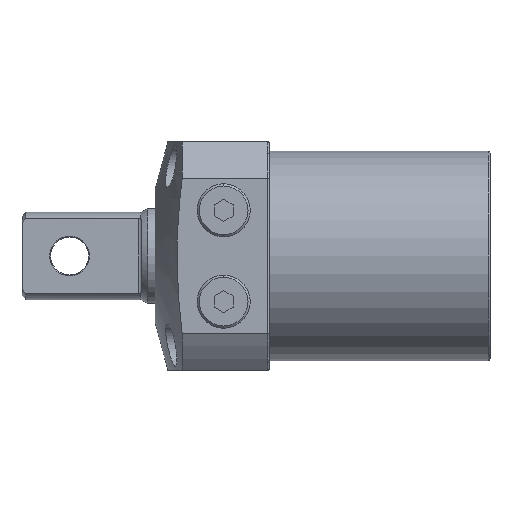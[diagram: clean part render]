
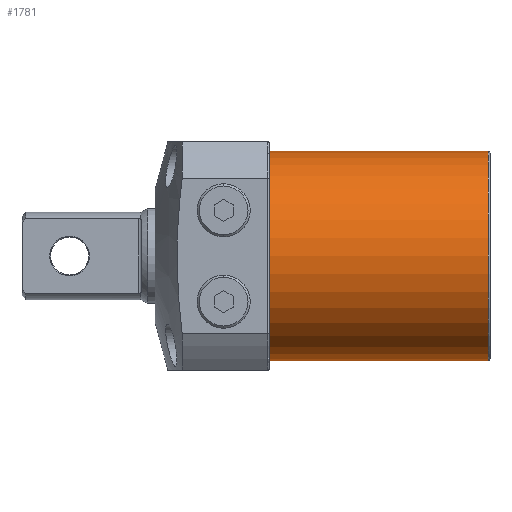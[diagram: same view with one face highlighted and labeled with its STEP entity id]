
A CAD part, left-side view. The second image highlights one B-rep face of the part: STEP entity #1781.
In plain terms, the highlighted cylindrical face has radius 27.5 mm (diameter 55 mm), a partial arc.
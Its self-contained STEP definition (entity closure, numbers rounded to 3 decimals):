
#53 = VERTEX_POINT ( 'NONE', #1877 ) ;
#162 = DIRECTION ( 'NONE',  ( -1., 0., 0. ) ) ;
#512 = EDGE_CURVE ( 'NONE', #4086, #53, #1102, .T. ) ;
#732 = DIRECTION ( 'NONE',  ( 1., 0., 0. ) ) ;
#1101 = EDGE_CURVE ( 'NONE', #4060, #5146, #1323, .T. ) ;
#1102 = LINE ( 'NONE', #1636, #2130 ) ;
#1323 = LINE ( 'NONE', #2457, #2503 ) ;
#1429 = AXIS2_PLACEMENT_3D ( 'NONE', #3377, #732, #3825 ) ;
#1467 = DIRECTION ( 'NONE',  ( 0., 0., 1. ) ) ;
#1533 = DIRECTION ( 'NONE',  ( -1., 0., 0. ) ) ;
#1636 = CARTESIAN_POINT ( 'NONE',  ( 89., 0., -27.5 ) ) ;
#1781 = ADVANCED_FACE ( 'NONE', ( #1970 ), #4168, .T. ) ;
#1877 = CARTESIAN_POINT ( 'NONE',  ( 30., 0., -27.5 ) ) ;
#1885 = EDGE_LOOP ( 'NONE', ( #3198, #3933, #4065, #5397 ) ) ;
#1970 = FACE_OUTER_BOUND ( 'NONE', #1885, .T. ) ;
#2130 = VECTOR ( 'NONE', #2341, 1000. ) ;
#2132 = AXIS2_PLACEMENT_3D ( 'NONE', #4187, #1533, #4648 ) ;
#2303 = EDGE_CURVE ( 'NONE', #4086, #4060, #2647, .T. ) ;
#2341 = DIRECTION ( 'NONE',  ( -1., 0., 0. ) ) ;
#2457 = CARTESIAN_POINT ( 'NONE',  ( 89., 0., 27.5 ) ) ;
#2503 = VECTOR ( 'NONE', #2889, 1000. ) ;
#2574 = EDGE_CURVE ( 'NONE', #5146, #53, #2864, .T. ) ;
#2647 = CIRCLE ( 'NONE', #2132, 27.5 ) ;
#2675 = CARTESIAN_POINT ( 'NONE',  ( 30., 0., 27.5 ) ) ;
#2801 = CARTESIAN_POINT ( 'NONE',  ( 89., 0., 0. ) ) ;
#2864 = CIRCLE ( 'NONE', #1429, 27.5 ) ;
#2889 = DIRECTION ( 'NONE',  ( -1., 0., 0. ) ) ;
#2940 = AXIS2_PLACEMENT_3D ( 'NONE', #2801, #162, #1467 ) ;
#3198 = ORIENTED_EDGE ( 'NONE', *, *, #512, .F. ) ;
#3377 = CARTESIAN_POINT ( 'NONE',  ( 30., 0., 0. ) ) ;
#3825 = DIRECTION ( 'NONE',  ( 0., 0., -1. ) ) ;
#3933 = ORIENTED_EDGE ( 'NONE', *, *, #2303, .T. ) ;
#3946 = CARTESIAN_POINT ( 'NONE',  ( 87.5, 0., 27.5 ) ) ;
#4060 = VERTEX_POINT ( 'NONE', #3946 ) ;
#4065 = ORIENTED_EDGE ( 'NONE', *, *, #1101, .T. ) ;
#4086 = VERTEX_POINT ( 'NONE', #4430 ) ;
#4168 = CYLINDRICAL_SURFACE ( 'NONE', #2940, 27.5 ) ;
#4187 = CARTESIAN_POINT ( 'NONE',  ( 87.5, 0., 0. ) ) ;
#4430 = CARTESIAN_POINT ( 'NONE',  ( 87.5, 0., -27.5 ) ) ;
#4648 = DIRECTION ( 'NONE',  ( 0., 0., -1. ) ) ;
#5146 = VERTEX_POINT ( 'NONE', #2675 ) ;
#5397 = ORIENTED_EDGE ( 'NONE', *, *, #2574, .T. ) ;
